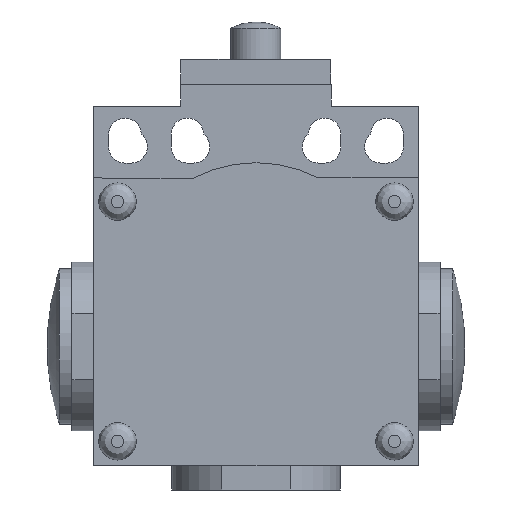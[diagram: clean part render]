
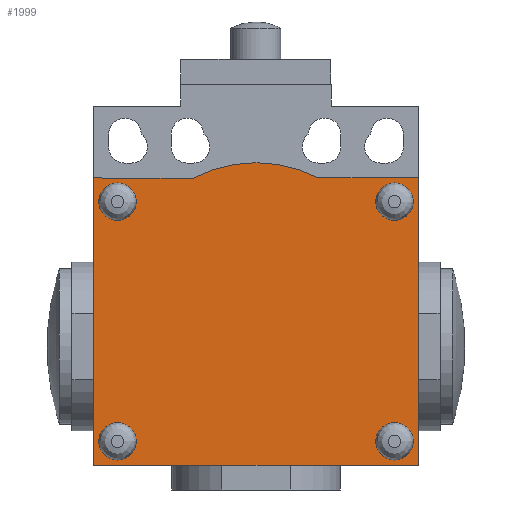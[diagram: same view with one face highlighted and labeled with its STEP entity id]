
A CAD part, front view. The second image highlights one B-rep face of the part: STEP entity #1999.
In plain terms, the highlighted planar face has unit normal (0, -1, 0) as drawn and (0, 0, 1) by its records, which use the part's own axes.
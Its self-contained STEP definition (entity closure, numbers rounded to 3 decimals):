
#907=CARTESIAN_POINT('',(26.0,0.0,28.65));
#908=VERTEX_POINT('',#907);
#915=CARTESIAN_POINT('',(-26.,0.0,28.65));
#916=VERTEX_POINT('',#915);
#917=CARTESIAN_POINT('',(26.0,0.0,28.65));
#918=DIRECTION('',(-1.0,0.0,0.0));
#919=VECTOR('',#918,52.);
#920=LINE('',#917,#919);
#921=EDGE_CURVE('',#908,#916,#920,.T.);
#1413=CARTESIAN_POINT('',(-26.,46.,28.65));
#1414=VERTEX_POINT('',#1413);
#1415=CARTESIAN_POINT('',(-26.,0.0,28.65));
#1416=DIRECTION('',(0.0,1.0,0.0));
#1417=VECTOR('',#1416,46.);
#1418=LINE('',#1415,#1417);
#1419=EDGE_CURVE('',#916,#1414,#1418,.T.);
#1535=CARTESIAN_POINT('',(-19.2,3.8,28.65));
#1536=VERTEX_POINT('',#1535);
#1537=CARTESIAN_POINT('',(-22.2,3.8,28.65));
#1538=DIRECTION('',(0.0,0.0,-1.0));
#1539=DIRECTION('',(-1.0,0.0,0.0));
#1540=AXIS2_PLACEMENT_3D('',#1537,#1538,#1539);
#1541=CIRCLE('',#1540,3.);
#1542=EDGE_CURVE('',#1536,#1536,#1541,.T.);
#1640=CARTESIAN_POINT('',(25.2,3.8,28.65));
#1641=VERTEX_POINT('',#1640);
#1642=CARTESIAN_POINT('',(22.2,3.8,28.65));
#1643=DIRECTION('',(0.0,0.0,-1.0));
#1644=DIRECTION('',(-1.0,0.0,0.0));
#1645=AXIS2_PLACEMENT_3D('',#1642,#1643,#1644);
#1646=CIRCLE('',#1645,3.);
#1647=EDGE_CURVE('',#1641,#1641,#1646,.T.);
#1745=CARTESIAN_POINT('',(25.2,42.2,28.65));
#1746=VERTEX_POINT('',#1745);
#1747=CARTESIAN_POINT('',(22.2,42.2,28.65));
#1748=DIRECTION('',(0.0,0.0,-1.0));
#1749=DIRECTION('',(-1.0,0.0,0.0));
#1750=AXIS2_PLACEMENT_3D('',#1747,#1748,#1749);
#1751=CIRCLE('',#1750,3.);
#1752=EDGE_CURVE('',#1746,#1746,#1751,.T.);
#1850=CARTESIAN_POINT('',(-19.2,42.2,28.65));
#1851=VERTEX_POINT('',#1850);
#1852=CARTESIAN_POINT('',(-22.2,42.2,28.65));
#1853=DIRECTION('',(0.0,0.0,-1.0));
#1854=DIRECTION('',(-1.0,0.0,0.0));
#1855=AXIS2_PLACEMENT_3D('',#1852,#1853,#1854);
#1856=CIRCLE('',#1855,3.);
#1857=EDGE_CURVE('',#1851,#1851,#1856,.T.);
#1879=CARTESIAN_POINT('',(-10.077,46.,28.65));
#1880=VERTEX_POINT('',#1879);
#1881=CARTESIAN_POINT('',(-26.,46.,28.65));
#1882=DIRECTION('',(1.0,0.0,0.0));
#1883=VECTOR('',#1882,15.923);
#1884=LINE('',#1881,#1883);
#1885=EDGE_CURVE('',#1414,#1880,#1884,.T.);
#1910=CARTESIAN_POINT('',(10.077,46.,28.65));
#1911=VERTEX_POINT('',#1910);
#1912=CARTESIAN_POINT('',(0.,26.5,28.65));
#1913=DIRECTION('',(0.0,0.0,-1.));
#1914=DIRECTION('',(0.459,0.888,0.0));
#1915=AXIS2_PLACEMENT_3D('',#1912,#1913,#1914);
#1916=CIRCLE('',#1915,21.95);
#1917=EDGE_CURVE('',#1880,#1911,#1916,.T.);
#1943=CARTESIAN_POINT('',(26.0,46.,28.65));
#1944=VERTEX_POINT('',#1943);
#1945=CARTESIAN_POINT('',(10.077,46.,28.65));
#1946=DIRECTION('',(1.0,0.0,0.0));
#1947=VECTOR('',#1946,15.923);
#1948=LINE('',#1945,#1947);
#1949=EDGE_CURVE('',#1911,#1944,#1948,.T.);
#1969=CARTESIAN_POINT('',(0.,23.248,28.65));
#1970=DIRECTION('',(0.0,0.0,1.0));
#1971=DIRECTION('',(1.0,0.0,0.0));
#1972=AXIS2_PLACEMENT_3D('',#1969,#1970,#1971);
#1973=PLANE('',#1972);
#1974=ORIENTED_EDGE('',*,*,#1419,.F.);
#1975=ORIENTED_EDGE('',*,*,#921,.F.);
#1976=CARTESIAN_POINT('',(26.0,46.,28.65));
#1977=DIRECTION('',(0.0,-1.0,0.0));
#1978=VECTOR('',#1977,46.);
#1979=LINE('',#1976,#1978);
#1980=EDGE_CURVE('',#1944,#908,#1979,.T.);
#1981=ORIENTED_EDGE('',*,*,#1980,.F.);
#1982=ORIENTED_EDGE('',*,*,#1949,.F.);
#1983=ORIENTED_EDGE('',*,*,#1917,.F.);
#1984=ORIENTED_EDGE('',*,*,#1885,.F.);
#1985=EDGE_LOOP('',(#1974,#1975,#1981,#1982,#1983,#1984));
#1986=FACE_OUTER_BOUND('',#1985,.T.);
#1987=ORIENTED_EDGE('',*,*,#1647,.T.);
#1988=EDGE_LOOP('',(#1987));
#1989=FACE_BOUND('',#1988,.T.);
#1990=ORIENTED_EDGE('',*,*,#1542,.T.);
#1991=EDGE_LOOP('',(#1990));
#1992=FACE_BOUND('',#1991,.T.);
#1993=ORIENTED_EDGE('',*,*,#1857,.T.);
#1994=EDGE_LOOP('',(#1993));
#1995=FACE_BOUND('',#1994,.T.);
#1996=ORIENTED_EDGE('',*,*,#1752,.T.);
#1997=EDGE_LOOP('',(#1996));
#1998=FACE_BOUND('',#1997,.T.);
#1999=ADVANCED_FACE('',(#1986,#1989,#1992,#1995,#1998),#1973,.T.);
